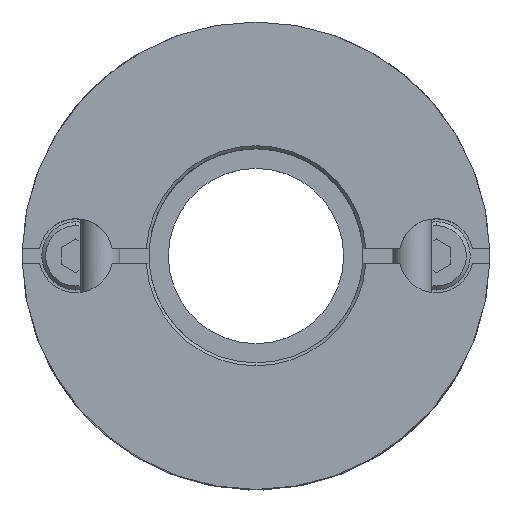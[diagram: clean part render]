
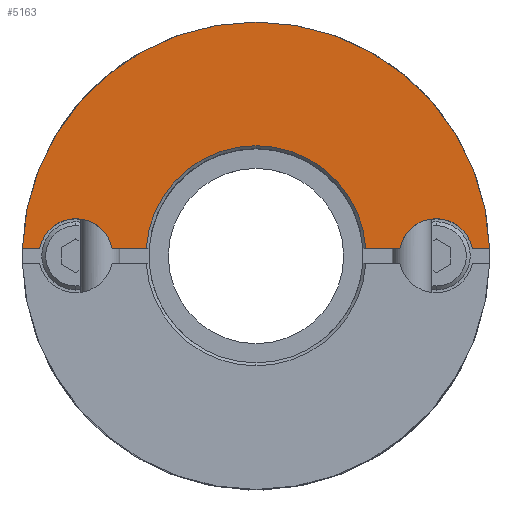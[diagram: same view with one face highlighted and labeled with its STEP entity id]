
A CAD part, top view. The second image highlights one B-rep face of the part: STEP entity #5163.
In plain terms, the highlighted planar face has unit normal (0, 0, 1).
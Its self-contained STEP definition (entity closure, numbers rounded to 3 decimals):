
#1951=CARTESIAN_POINT('',(0.,11.3,19.3));
#1952=VERTEX_POINT('',#1951);
#1961=CARTESIAN_POINT('',(-11.275,0.75,19.3));
#1962=VERTEX_POINT('',#1961);
#1963=CARTESIAN_POINT('',(0.,0.,19.3));
#1964=DIRECTION('',(0.0,0.0,1.0));
#1965=DIRECTION('',(0.0,-1.0,0.0));
#1966=AXIS2_PLACEMENT_3D('',#1963,#1964,#1965);
#1967=CIRCLE('',#1966,11.3);
#1968=EDGE_CURVE('',#1952,#1962,#1967,.T.);
#2140=CARTESIAN_POINT('',(0.,24.,19.3));
#2141=VERTEX_POINT('',#2140);
#2225=CARTESIAN_POINT('',(-23.988,0.75,19.3));
#2226=VERTEX_POINT('',#2225);
#2233=CARTESIAN_POINT('',(0.,0.,19.3));
#2234=DIRECTION('',(0.0,0.0,-1.0));
#2235=DIRECTION('',(0.0,1.0,0.0));
#2236=AXIS2_PLACEMENT_3D('',#2233,#2234,#2235);
#2237=CIRCLE('',#2236,24.0);
#2238=EDGE_CURVE('',#2226,#2141,#2237,.T.);
#2669=CARTESIAN_POINT('',(-18.5,3.8,19.3));
#2670=VERTEX_POINT('',#2669);
#2679=CARTESIAN_POINT('',(-22.225,0.75,19.3));
#2680=VERTEX_POINT('',#2679);
#2681=CARTESIAN_POINT('',(-18.5,0.,19.3));
#2682=DIRECTION('',(0.0,0.0,-1.0));
#2683=DIRECTION('',(0.0,1.0,0.0));
#2684=AXIS2_PLACEMENT_3D('',#2681,#2682,#2683);
#2685=CIRCLE('',#2684,3.8);
#2686=EDGE_CURVE('',#2680,#2670,#2685,.T.);
#2955=CARTESIAN_POINT('',(18.5,3.8,19.3));
#2956=VERTEX_POINT('',#2955);
#2965=CARTESIAN_POINT('',(14.775,0.75,19.3));
#2966=VERTEX_POINT('',#2965);
#2967=CARTESIAN_POINT('',(18.5,0.,19.3));
#2968=DIRECTION('',(0.0,0.0,-1.0));
#2969=DIRECTION('',(0.0,1.0,0.0));
#2970=AXIS2_PLACEMENT_3D('',#2967,#2968,#2969);
#2971=CIRCLE('',#2970,3.8);
#2972=EDGE_CURVE('',#2966,#2956,#2971,.T.);
#4022=CARTESIAN_POINT('',(22.225,0.75,19.3));
#4023=VERTEX_POINT('',#4022);
#4030=CARTESIAN_POINT('',(18.5,0.,19.3));
#4031=DIRECTION('',(0.0,0.0,-1.0));
#4032=DIRECTION('',(0.0,1.0,0.0));
#4033=AXIS2_PLACEMENT_3D('',#4030,#4031,#4032);
#4034=CIRCLE('',#4033,3.8);
#4035=EDGE_CURVE('',#2956,#4023,#4034,.T.);
#4290=CARTESIAN_POINT('',(-14.775,0.75,19.3));
#4291=VERTEX_POINT('',#4290);
#4298=CARTESIAN_POINT('',(-18.5,0.,19.3));
#4299=DIRECTION('',(0.0,0.0,-1.0));
#4300=DIRECTION('',(0.0,1.0,0.0));
#4301=AXIS2_PLACEMENT_3D('',#4298,#4299,#4300);
#4302=CIRCLE('',#4301,3.8);
#4303=EDGE_CURVE('',#2670,#4291,#4302,.T.);
#4400=CARTESIAN_POINT('',(-14.775,0.75,19.3));
#4401=DIRECTION('',(1.0,0.0,0.0));
#4402=VECTOR('',#4401,3.5);
#4403=LINE('',#4400,#4402);
#4404=EDGE_CURVE('',#4291,#1962,#4403,.T.);
#4467=CARTESIAN_POINT('',(11.275,0.75,19.3));
#4468=VERTEX_POINT('',#4467);
#4469=CARTESIAN_POINT('',(11.275,0.75,19.3));
#4470=DIRECTION('',(1.0,0.0,0.0));
#4471=VECTOR('',#4470,3.5);
#4472=LINE('',#4469,#4471);
#4473=EDGE_CURVE('',#4468,#2966,#4472,.T.);
#5042=CARTESIAN_POINT('',(23.988,0.75,19.3));
#5043=VERTEX_POINT('',#5042);
#5050=CARTESIAN_POINT('',(22.225,0.75,19.3));
#5051=DIRECTION('',(1.0,0.0,0.0));
#5052=VECTOR('',#5051,1.763);
#5053=LINE('',#5050,#5052);
#5054=EDGE_CURVE('',#4023,#5043,#5053,.T.);
#5127=CARTESIAN_POINT('',(0.,2.182,19.3));
#5128=DIRECTION('',(0.0,0.0,1.0));
#5129=DIRECTION('',(0.0,1.0,0.0));
#5130=AXIS2_PLACEMENT_3D('',#5127,#5128,#5129);
#5131=PLANE('',#5130);
#5132=ORIENTED_EDGE('',*,*,#2972,.T.);
#5133=ORIENTED_EDGE('',*,*,#4035,.T.);
#5134=ORIENTED_EDGE('',*,*,#5054,.T.);
#5135=CARTESIAN_POINT('',(0.,0.,19.3));
#5136=DIRECTION('',(0.0,0.0,-1.0));
#5137=DIRECTION('',(0.0,1.0,0.0));
#5138=AXIS2_PLACEMENT_3D('',#5135,#5136,#5137);
#5139=CIRCLE('',#5138,24.0);
#5140=EDGE_CURVE('',#2141,#5043,#5139,.T.);
#5141=ORIENTED_EDGE('',*,*,#5140,.F.);
#5142=ORIENTED_EDGE('',*,*,#2238,.F.);
#5143=CARTESIAN_POINT('',(-23.988,0.75,19.3));
#5144=DIRECTION('',(1.0,0.0,0.0));
#5145=VECTOR('',#5144,1.763);
#5146=LINE('',#5143,#5145);
#5147=EDGE_CURVE('',#2226,#2680,#5146,.T.);
#5148=ORIENTED_EDGE('',*,*,#5147,.T.);
#5149=ORIENTED_EDGE('',*,*,#2686,.T.);
#5150=ORIENTED_EDGE('',*,*,#4303,.T.);
#5151=ORIENTED_EDGE('',*,*,#4404,.T.);
#5152=ORIENTED_EDGE('',*,*,#1968,.F.);
#5153=CARTESIAN_POINT('',(0.,0.,19.3));
#5154=DIRECTION('',(0.0,0.0,1.0));
#5155=DIRECTION('',(0.0,-1.0,0.0));
#5156=AXIS2_PLACEMENT_3D('',#5153,#5154,#5155);
#5157=CIRCLE('',#5156,11.3);
#5158=EDGE_CURVE('',#4468,#1952,#5157,.T.);
#5159=ORIENTED_EDGE('',*,*,#5158,.F.);
#5160=ORIENTED_EDGE('',*,*,#4473,.T.);
#5161=EDGE_LOOP('',(#5132,#5133,#5134,#5141,#5142,#5148,#5149,#5150,#5151,#5152,#5159,#5160));
#5162=FACE_OUTER_BOUND('',#5161,.T.);
#5163=ADVANCED_FACE('',(#5162),#5131,.T.);
